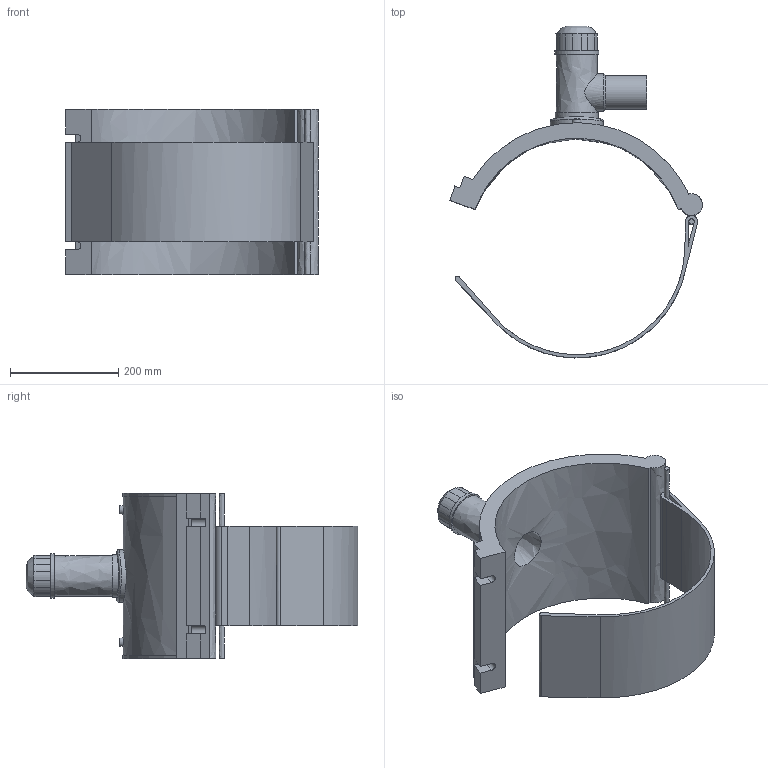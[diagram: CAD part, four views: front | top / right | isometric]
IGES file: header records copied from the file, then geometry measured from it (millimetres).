
Global section: file name: 491304400063; native system: Autodesk Inventor 2019; preprocessor: unknown; author: KIM; date: 20230323.112921; units: millimetre
Bounding box: 467.29 x 614 x 306 mm (x, y, z)
Volume: 6283289.4 mm3; surface area: 793391.9 mm2
Topology: 2 solids, 2 shells, 91 faces, 229 edges, 157 vertices
Faces by surface type: bspline 91
